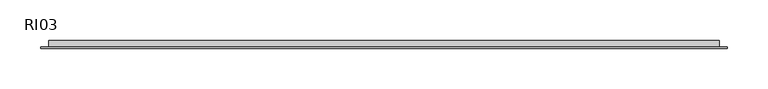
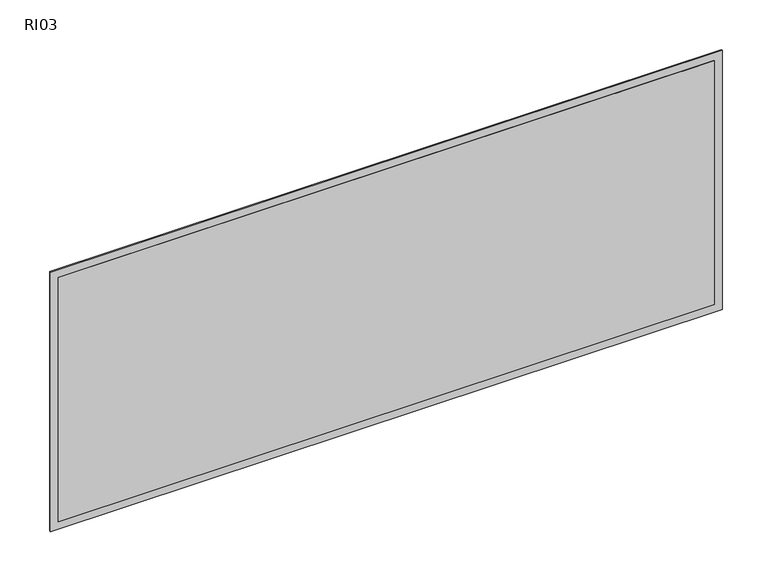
"""IFC4 building model written with IfcOpenShell, lengths in millimetres: air terminal geometry, ZYR_03.06.04.01 Reixa Paret Impulsió : RI03."""

from ifc_helpers import new_model, si_unit, frame, origin, place, context, project, spatial, polyline, outline, extrude, source, transform, mapped, element, save


def ri03_e52087e4(model_context):
    return source(origin(), model_context, "Body", "SweptSolid", [
        extrude(outline(polyline([(412.5, 0.0), (-412.5, 0.0), (-412.5, 10.0), (412.5, 10.0), (412.5, 0.0)])), frame((0.0, 0.0, -162.5), z_axis=(0.0, 0.0, 1.0), x_axis=(1.0, 0.0, 0.0)), (0.0, 0.0, 1.0), 325.0),
        extrude(outline(polyline([(172.5, 422.5), (172.5, -422.5), (-172.5, -422.5), (-172.5, 422.5), (172.5, 422.5)]), holes=[polyline([(162.5, 412.5), (-162.5, 412.5), (-162.5, -412.5), (162.5, -412.5), (162.5, 412.5)])]), frame((0.0, 0.0, 0.0), z_axis=(0.0, 1.0, 0.0), x_axis=(0.0, 0.0, 1.0)), (0.0, 0.0, 1.0), 2.0),
    ])


if __name__ == "__main__":
    model = new_model("IFC4")
    model_context = context("Model", 3, world=origin())
    ifc_project = project(units=[si_unit("LENGTHUNIT", "METRE", prefix="MILLI")], contexts=[model_context])
    site = spatial("IfcSite", under=ifc_project)
    building = spatial("IfcBuilding", under=site)
    placement = place(None, origin())
    ri03_shape = ri03_e52087e4(model_context)
    element("IfcAirTerminal", 1, ObjectType="ZYR_03.06.04.01 Reixa Paret Impulsió : RI03", at=placement, inside=building, context=model_context, shape_type="MappedRepresentation", body=[
        mapped(ri03_shape, transform((0.0, 0.0, 0.0), x_axis=(1.0, 0.0, 0.0), y_axis=(0.0, 1.0, 0.0), z_axis=(0.0, 0.0, 1.0))),
    ])
    save(model, "model.ifc")
